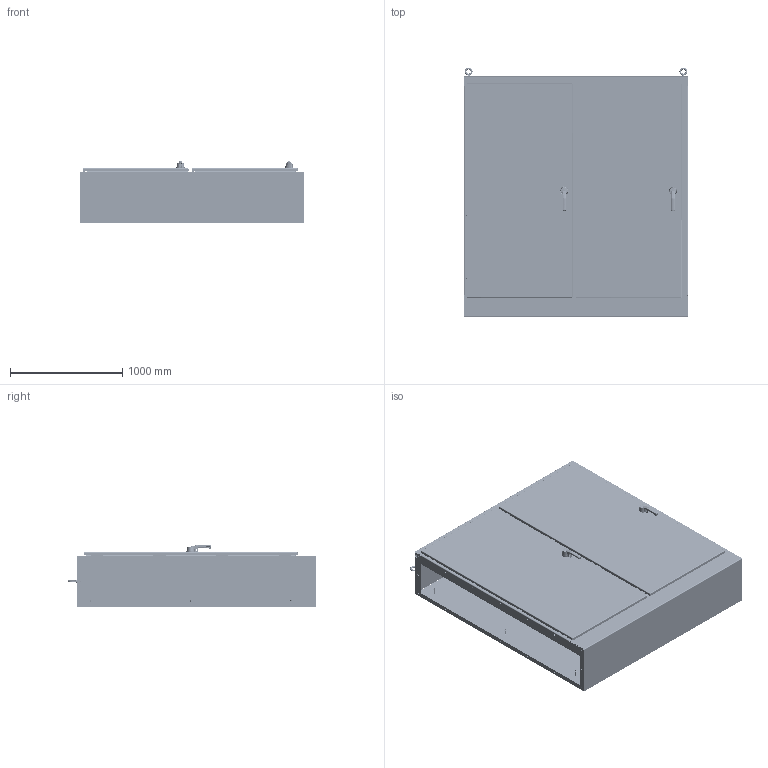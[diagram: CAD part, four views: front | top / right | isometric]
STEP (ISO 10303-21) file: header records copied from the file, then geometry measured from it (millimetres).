
FILE_DESCRIPTION (( 'STEP AP203' ), '1' );
FILE_NAME ('au84x7818llp.STEP', '2020-06-24T01:19:22', ( '' ), ( '' ), 'SwSTEP 2.0', 'SolidWorks 2016', '' );
FILE_SCHEMA (( 'CONFIG_CONTROL_DESIGN' ));
Length unit declared in the file: inch
Products named in the file (109): 11258826; 89176248; 89075576; 27439102_Closed; 27439002_27439002; 30101003; 89182904; 27151001; 26274019_26274019; 89177672; 23418001; 99404175_Config-Drawing; 89175157_89175157; au84x7818llp; 22101003; 22318003; 89176507; 22101014; 89182915; 89179224; 99401452; 89179620_89067584; 99404397_AFTER WELD; 89173484; 99411273_99411273; 99404177; 99411910_Config-Drawing; 89179571; 89183001; 89183521_26149001; 11258024_11258024; 27439101_27439101; 22101001; 89182898; 89179673; 87401709; 60127137; 22318001; 89087372_35124003; 89176717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
Assembly tree (229 placements, depth 5):
  au84x7818llp
    89182910
      89182909
        89182898
        89182902
        11258826  x2
        89177674  x2
          89177673
          89177672
        99404397_AFTER WELD  x10
        89182901
          89182899_MASTER
          99404177  x2
      89182908
        89182906
        99404177_Config-Drawing  x2
      89182905
        89182904
        11258024_11258024
        22112001_AFTER WELD  x4
        99404175_Config-Drawing
        99411210_Config-Drawing  x2
      89177671  x2
      26108002  x2
      89106531  x2
      89182915
        89183001
        89183004
        89176248  x2
        11158974  x2
    89179571
      89179570
        89179569
        99404177_Config-Drawing
        24110001  x2
        99411910_Config-Drawing  x2
        89085464_60127101  x4
      23418001
      22318001  x2
      89179620_89067584
      26274019_26274019
        26273019_26273019
        30101003  x2
        27115001
        22318002
      89121292_SETTING 3  x2
        89106810
        89106811
        99411273_99411273
      26118002_26118002  x2
      27439102_Closed
        27438002
        27439002_27439002
          89075576
          27150001
        27156001
        27151001
        27155001
      99401300_99401300  x2
      35130001_SI-HHMS 0.25-28x0.375x0.375-N  x2
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Bounding box: 1993.9 x 2217.32 x 557.17 mm (x, y, z)
Volume: 41083071.2 mm3; surface area: 28193466.3 mm2
Topology: 273 solids, 276 shells, 16019 faces, 39711 edges, 24434 vertices
Faces by surface type: plane 6440, cylinder 4598, bspline 2250, cone 1489, torus 1039, sphere 203
Entity records: 269234 total; most frequent: CARTESIAN_POINT 119581, ORIENTED_EDGE 29530, DIRECTION 26099, EDGE_CURVE 14766, AXIS2_PLACEMENT_3D 9674, VERTEX_POINT 9061, VECTOR 6751, LINE 6751
